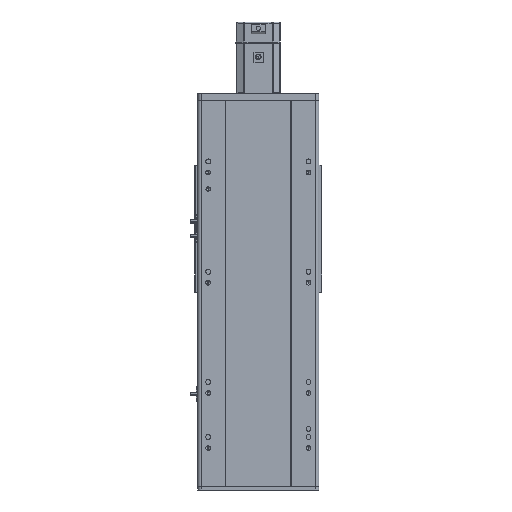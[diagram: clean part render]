
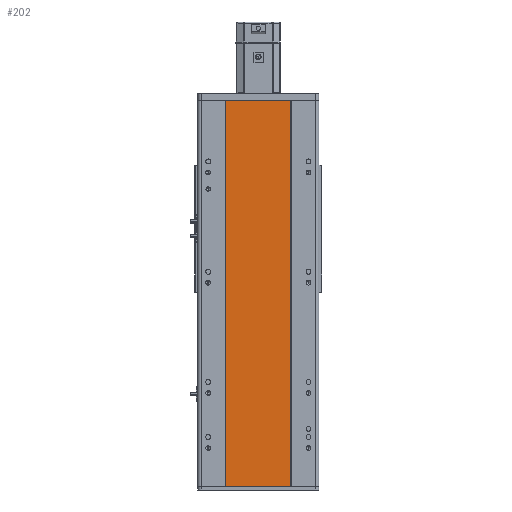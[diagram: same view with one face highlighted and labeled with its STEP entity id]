
A CAD part, front view. The second image highlights one B-rep face of the part: STEP entity #202.
In plain terms, the highlighted planar face has unit normal (0, -1, 0).
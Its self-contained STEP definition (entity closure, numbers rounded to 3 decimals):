
#202 = ADVANCED_FACE ( 'NONE', ( #8783 ), #2825, .F. ) ;
#638 = ORIENTED_EDGE ( 'NONE', *, *, #15348, .F. ) ;
#730 = EDGE_CURVE ( 'NONE', #11858, #10052, #16764, .T. ) ;
#2572 = CARTESIAN_POINT ( 'NONE',  ( 59., 1., 350.5 ) ) ;
#2825 = PLANE ( 'NONE',  #36000 ) ;
#5068 = CARTESIAN_POINT ( 'NONE',  ( 59., 1., 350.5 ) ) ;
#5698 = ORIENTED_EDGE ( 'NONE', *, *, #730, .T. ) ;
#6265 = DIRECTION ( 'NONE',  ( 1., 0., 0. ) ) ;
#8106 = DIRECTION ( 'NONE',  ( 0., 0., -1. ) ) ;
#8783 = FACE_OUTER_BOUND ( 'NONE', #20921, .T. ) ;
#9909 = ORIENTED_EDGE ( 'NONE', *, *, #14076, .F. ) ;
#10052 = VERTEX_POINT ( 'NONE', #23509 ) ;
#10754 = CARTESIAN_POINT ( 'NONE',  ( -59., 1., 350.5 ) ) ;
#11858 = VERTEX_POINT ( 'NONE', #12532 ) ;
#12532 = CARTESIAN_POINT ( 'NONE',  ( -59., 1., -350.5 ) ) ;
#13493 = VERTEX_POINT ( 'NONE', #10754 ) ;
#14076 = EDGE_CURVE ( 'NONE', #14915, #10052, #35904, .T. ) ;
#14915 = VERTEX_POINT ( 'NONE', #5068 ) ;
#15348 = EDGE_CURVE ( 'NONE', #13493, #14915, #25116, .T. ) ;
#16764 = LINE ( 'NONE', #17107, #29178 ) ;
#17107 = CARTESIAN_POINT ( 'NONE',  ( -59., 1., -350.5 ) ) ;
#19326 = EDGE_CURVE ( 'NONE', #13493, #11858, #30497, .T. ) ;
#19441 = VECTOR ( 'NONE', #8106, 1000. ) ;
#20921 = EDGE_LOOP ( 'NONE', ( #5698, #9909, #638, #36788 ) ) ;
#22848 = DIRECTION ( 'NONE',  ( 0., 1., 0. ) ) ;
#23509 = CARTESIAN_POINT ( 'NONE',  ( 59., 1., -350.5 ) ) ;
#25116 = LINE ( 'NONE', #29614, #34026 ) ;
#25424 = DIRECTION ( 'NONE',  ( 0., 0., -1. ) ) ;
#25551 = CARTESIAN_POINT ( 'NONE',  ( -59., 1., 350.5 ) ) ;
#29178 = VECTOR ( 'NONE', #6265, 1000. ) ;
#29237 = VECTOR ( 'NONE', #25424, 1000. ) ;
#29614 = CARTESIAN_POINT ( 'NONE',  ( -59., 1., 350.5 ) ) ;
#30082 = DIRECTION ( 'NONE',  ( 1., 0., 0. ) ) ;
#30497 = LINE ( 'NONE', #31203, #19441 ) ;
#31203 = CARTESIAN_POINT ( 'NONE',  ( -59., 1., 350.5 ) ) ;
#31390 = DIRECTION ( 'NONE',  ( -1., 0., 0. ) ) ;
#34026 = VECTOR ( 'NONE', #30082, 1000. ) ;
#35904 = LINE ( 'NONE', #2572, #29237 ) ;
#36000 = AXIS2_PLACEMENT_3D ( 'NONE', #25551, #22848, #31390 ) ;
#36788 = ORIENTED_EDGE ( 'NONE', *, *, #19326, .T. ) ;
